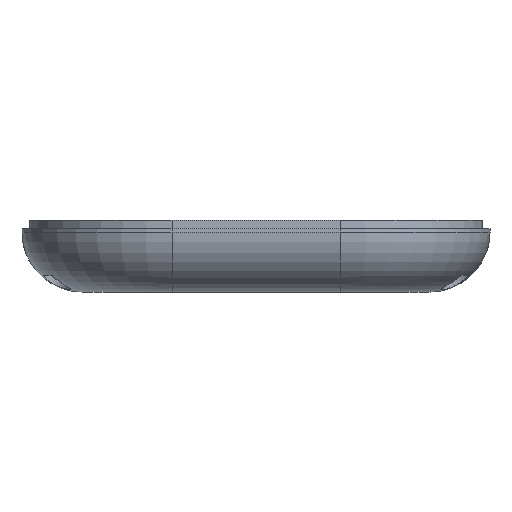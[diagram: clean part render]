
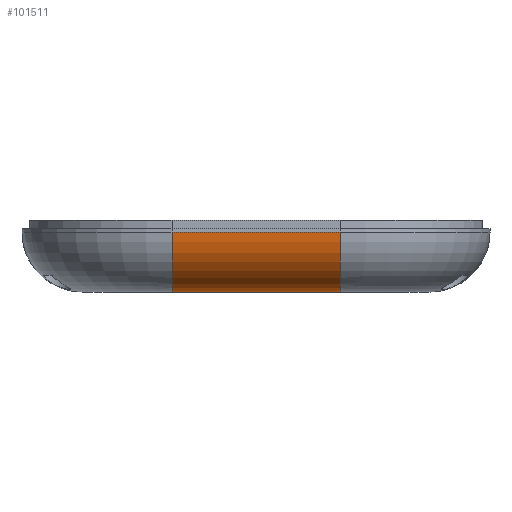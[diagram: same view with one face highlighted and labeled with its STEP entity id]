
A CAD part, front view. The second image highlights one B-rep face of the part: STEP entity #101511.
In plain terms, the highlighted cylindrical face has radius 10 mm (diameter 20 mm), a partial arc.
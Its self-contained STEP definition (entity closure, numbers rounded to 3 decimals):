
#125 = TOROIDAL_SURFACE('',#126,15.,10.);
#126 = AXIS2_PLACEMENT_3D('',#127,#128,#129);
#127 = CARTESIAN_POINT('',(14.,-50.,14.));
#128 = DIRECTION('',(0.,0.,1.));
#129 = DIRECTION('',(1.,0.,-0.));
#1073 = TOROIDAL_SURFACE('',#1074,15.,10.);
#1074 = AXIS2_PLACEMENT_3D('',#1075,#1076,#1077);
#1075 = CARTESIAN_POINT('',(-14.,-50.,14.));
#1076 = DIRECTION('',(0.,0.,1.));
#1077 = DIRECTION('',(1.,0.,-0.));
#52172 = PLANE('',#52173);
#52173 = AXIS2_PLACEMENT_3D('',#52174,#52175,#52176);
#52174 = CARTESIAN_POINT('',(0.,0.,24.));
#52175 = DIRECTION('',(0.,0.,1.));
#52176 = DIRECTION('',(1.,0.,-0.));
#52580 = PLANE('',#52581);
#52581 = AXIS2_PLACEMENT_3D('',#52582,#52583,#52584);
#52582 = CARTESIAN_POINT('',(-14.,-75.,12.));
#52583 = DIRECTION('',(0.,-1.,0.));
#52584 = DIRECTION('',(1.,0.,0.));
#101354 = VERTEX_POINT('',#101355);
#101355 = CARTESIAN_POINT('',(-14.,-75.,14.));
#101404 = VERTEX_POINT('',#101405);
#101405 = CARTESIAN_POINT('',(14.,-75.,14.));
#101426 = EDGE_CURVE('',#101354,#101404,#101427,.T.);
#101427 = SURFACE_CURVE('',#101428,(#101432,#101439),.PCURVE_S1.);
#101428 = LINE('',#101429,#101430);
#101429 = CARTESIAN_POINT('',(-7.,-75.,14.));
#101430 = VECTOR('',#101431,1.);
#101431 = DIRECTION('',(1.,0.,0.));
#101432 = PCURVE('',#52580,#101433);
#101433 = DEFINITIONAL_REPRESENTATION('',(#101434),#101438);
#101434 = LINE('',#101435,#101436);
#101435 = CARTESIAN_POINT('',(7.,2.));
#101436 = VECTOR('',#101437,1.);
#101437 = DIRECTION('',(1.,0.));
#101438 = ( GEOMETRIC_REPRESENTATION_CONTEXT(2) 
PARAMETRIC_REPRESENTATION_CONTEXT() REPRESENTATION_CONTEXT('2D SPACE',''
  ) );
#101439 = PCURVE('',#101440,#101445);
#101440 = CYLINDRICAL_SURFACE('',#101441,10.);
#101441 = AXIS2_PLACEMENT_3D('',#101442,#101443,#101444);
#101442 = CARTESIAN_POINT('',(-7.,-65.,14.));
#101443 = DIRECTION('',(1.,0.,0.));
#101444 = DIRECTION('',(0.,-0.707,0.707));
#101445 = DEFINITIONAL_REPRESENTATION('',(#101446),#101450);
#101446 = LINE('',#101447,#101448);
#101447 = CARTESIAN_POINT('',(0.785,0.));
#101448 = VECTOR('',#101449,1.);
#101449 = DIRECTION('',(0.,1.));
#101450 = ( GEOMETRIC_REPRESENTATION_CONTEXT(2) 
PARAMETRIC_REPRESENTATION_CONTEXT() REPRESENTATION_CONTEXT('2D SPACE',''
  ) );
#101456 = EDGE_CURVE('',#101354,#101457,#101459,.T.);
#101457 = VERTEX_POINT('',#101458);
#101458 = CARTESIAN_POINT('',(-14.,-65.,24.));
#101459 = SURFACE_CURVE('',#101460,(#101465,#101472),.PCURVE_S1.);
#101460 = CIRCLE('',#101461,10.);
#101461 = AXIS2_PLACEMENT_3D('',#101462,#101463,#101464);
#101462 = CARTESIAN_POINT('',(-14.,-65.,14.));
#101463 = DIRECTION('',(-1.,0.,0.));
#101464 = DIRECTION('',(0.,-1.,0.));
#101465 = PCURVE('',#1073,#101466);
#101466 = DEFINITIONAL_REPRESENTATION('',(#101467),#101471);
#101467 = LINE('',#101468,#101469);
#101468 = CARTESIAN_POINT('',(4.712,0.));
#101469 = VECTOR('',#101470,1.);
#101470 = DIRECTION('',(0.,1.));
#101471 = ( GEOMETRIC_REPRESENTATION_CONTEXT(2) 
PARAMETRIC_REPRESENTATION_CONTEXT() REPRESENTATION_CONTEXT('2D SPACE',''
  ) );
#101472 = PCURVE('',#101440,#101473);
#101473 = DEFINITIONAL_REPRESENTATION('',(#101474),#101478);
#101474 = LINE('',#101475,#101476);
#101475 = CARTESIAN_POINT('',(0.785,-7.));
#101476 = VECTOR('',#101477,1.);
#101477 = DIRECTION('',(-1.,0.));
#101478 = ( GEOMETRIC_REPRESENTATION_CONTEXT(2) 
PARAMETRIC_REPRESENTATION_CONTEXT() REPRESENTATION_CONTEXT('2D SPACE',''
  ) );
#101511 = ADVANCED_FACE('',(#101512),#101440,.T.);
#101512 = FACE_BOUND('',#101513,.T.);
#101513 = EDGE_LOOP('',(#101514,#101538,#101559,#101560));
#101514 = ORIENTED_EDGE('',*,*,#101515,.T.);
#101515 = EDGE_CURVE('',#101404,#101516,#101518,.T.);
#101516 = VERTEX_POINT('',#101517);
#101517 = CARTESIAN_POINT('',(14.,-65.,24.));
#101518 = SURFACE_CURVE('',#101519,(#101524,#101531),.PCURVE_S1.);
#101519 = CIRCLE('',#101520,10.);
#101520 = AXIS2_PLACEMENT_3D('',#101521,#101522,#101523);
#101521 = CARTESIAN_POINT('',(14.,-65.,14.));
#101522 = DIRECTION('',(-1.,0.,0.));
#101523 = DIRECTION('',(0.,-1.,0.));
#101524 = PCURVE('',#101440,#101525);
#101525 = DEFINITIONAL_REPRESENTATION('',(#101526),#101530);
#101526 = LINE('',#101527,#101528);
#101527 = CARTESIAN_POINT('',(0.785,21.));
#101528 = VECTOR('',#101529,1.);
#101529 = DIRECTION('',(-1.,0.));
#101530 = ( GEOMETRIC_REPRESENTATION_CONTEXT(2) 
PARAMETRIC_REPRESENTATION_CONTEXT() REPRESENTATION_CONTEXT('2D SPACE',''
  ) );
#101531 = PCURVE('',#125,#101532);
#101532 = DEFINITIONAL_REPRESENTATION('',(#101533),#101537);
#101533 = LINE('',#101534,#101535);
#101534 = CARTESIAN_POINT('',(4.712,0.));
#101535 = VECTOR('',#101536,1.);
#101536 = DIRECTION('',(0.,1.));
#101537 = ( GEOMETRIC_REPRESENTATION_CONTEXT(2) 
PARAMETRIC_REPRESENTATION_CONTEXT() REPRESENTATION_CONTEXT('2D SPACE',''
  ) );
#101538 = ORIENTED_EDGE('',*,*,#101539,.T.);
#101539 = EDGE_CURVE('',#101516,#101457,#101540,.T.);
#101540 = SURFACE_CURVE('',#101541,(#101545,#101552),.PCURVE_S1.);
#101541 = LINE('',#101542,#101543);
#101542 = CARTESIAN_POINT('',(-7.,-65.,24.));
#101543 = VECTOR('',#101544,1.);
#101544 = DIRECTION('',(-1.,0.,0.));
#101545 = PCURVE('',#101440,#101546);
#101546 = DEFINITIONAL_REPRESENTATION('',(#101547),#101551);
#101547 = LINE('',#101548,#101549);
#101548 = CARTESIAN_POINT('',(-0.785,0.));
#101549 = VECTOR('',#101550,1.);
#101550 = DIRECTION('',(0.,-1.));
#101551 = ( GEOMETRIC_REPRESENTATION_CONTEXT(2) 
PARAMETRIC_REPRESENTATION_CONTEXT() REPRESENTATION_CONTEXT('2D SPACE',''
  ) );
#101552 = PCURVE('',#52172,#101553);
#101553 = DEFINITIONAL_REPRESENTATION('',(#101554),#101558);
#101554 = LINE('',#101555,#101556);
#101555 = CARTESIAN_POINT('',(-7.,-65.));
#101556 = VECTOR('',#101557,1.);
#101557 = DIRECTION('',(-1.,0.));
#101558 = ( GEOMETRIC_REPRESENTATION_CONTEXT(2) 
PARAMETRIC_REPRESENTATION_CONTEXT() REPRESENTATION_CONTEXT('2D SPACE',''
  ) );
#101559 = ORIENTED_EDGE('',*,*,#101456,.F.);
#101560 = ORIENTED_EDGE('',*,*,#101426,.T.);
